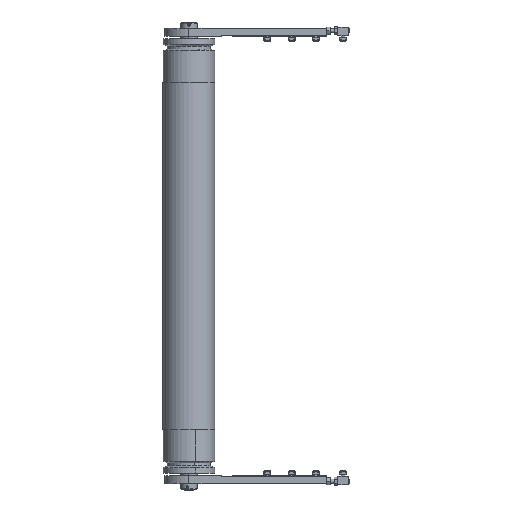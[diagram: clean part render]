
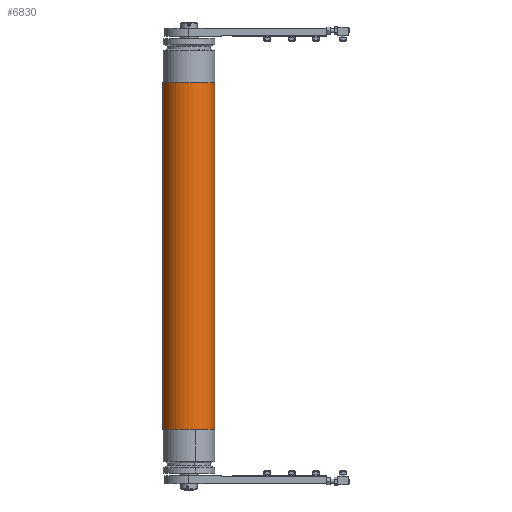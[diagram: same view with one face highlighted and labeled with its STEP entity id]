
A CAD part, front view. The second image highlights one B-rep face of the part: STEP entity #6830.
In plain terms, the highlighted cylindrical face has radius 48 mm (diameter 96 mm), a partial arc.
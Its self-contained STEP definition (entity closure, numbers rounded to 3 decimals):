
#40 = DIRECTION ( 'NONE',  ( -1., 0., 0. ) ) ;
#509 = AXIS2_PLACEMENT_3D ( 'NONE', #9097, #10222, #3620 ) ;
#589 = FACE_OUTER_BOUND ( 'NONE', #692, .T. ) ;
#692 = EDGE_LOOP ( 'NONE', ( #8139, #7138, #11263, #10509 ) ) ;
#892 = DIRECTION ( 'NONE',  ( 0., 0., -1. ) ) ;
#1417 = CIRCLE ( 'NONE', #509, 48. ) ;
#1544 = VECTOR ( 'NONE', #4777, 1000. ) ;
#1654 = VERTEX_POINT ( 'NONE', #10683 ) ;
#1708 = CARTESIAN_POINT ( 'NONE',  ( 321.5, 0., -48. ) ) ;
#2135 = CARTESIAN_POINT ( 'NONE',  ( -321.5, 0., -48. ) ) ;
#2560 = CARTESIAN_POINT ( 'NONE',  ( 321.5, 0., 48. ) ) ;
#3103 = LINE ( 'NONE', #2560, #1544 ) ;
#3459 = DIRECTION ( 'NONE',  ( -1., 0., 0. ) ) ;
#3620 = DIRECTION ( 'NONE',  ( 0., 0., -1. ) ) ;
#3925 = AXIS2_PLACEMENT_3D ( 'NONE', #13506, #3459, #10241 ) ;
#4777 = DIRECTION ( 'NONE',  ( -1., 0., 0. ) ) ;
#5220 = VERTEX_POINT ( 'NONE', #1708 ) ;
#5863 = VERTEX_POINT ( 'NONE', #8331 ) ;
#6077 = EDGE_CURVE ( 'NONE', #5220, #8330, #11059, .T. ) ;
#6830 = ADVANCED_FACE ( 'NONE', ( #589 ), #10691, .T. ) ;
#7138 = ORIENTED_EDGE ( 'NONE', *, *, #8033, .F. ) ;
#8033 = EDGE_CURVE ( 'NONE', #5863, #5220, #1417, .T. ) ;
#8139 = ORIENTED_EDGE ( 'NONE', *, *, #6077, .F. ) ;
#8330 = VERTEX_POINT ( 'NONE', #2135 ) ;
#8331 = CARTESIAN_POINT ( 'NONE',  ( 321.5, 0., 48. ) ) ;
#8580 = VECTOR ( 'NONE', #40, 1000. ) ;
#8834 = AXIS2_PLACEMENT_3D ( 'NONE', #13100, #14140, #892 ) ;
#9097 = CARTESIAN_POINT ( 'NONE',  ( 321.5, 0., 0. ) ) ;
#10222 = DIRECTION ( 'NONE',  ( 1., 0., 0. ) ) ;
#10241 = DIRECTION ( 'NONE',  ( 0., 0., 1. ) ) ;
#10509 = ORIENTED_EDGE ( 'NONE', *, *, #12902, .T. ) ;
#10683 = CARTESIAN_POINT ( 'NONE',  ( -321.5, 0., 48. ) ) ;
#10691 = CYLINDRICAL_SURFACE ( 'NONE', #3925, 48. ) ;
#11059 = LINE ( 'NONE', #12028, #8580 ) ;
#11263 = ORIENTED_EDGE ( 'NONE', *, *, #12763, .T. ) ;
#12028 = CARTESIAN_POINT ( 'NONE',  ( 321.5, 0., -48. ) ) ;
#12370 = CIRCLE ( 'NONE', #8834, 48. ) ;
#12763 = EDGE_CURVE ( 'NONE', #5863, #1654, #3103, .T. ) ;
#12902 = EDGE_CURVE ( 'NONE', #1654, #8330, #12370, .T. ) ;
#13100 = CARTESIAN_POINT ( 'NONE',  ( -321.5, 0., 0. ) ) ;
#13506 = CARTESIAN_POINT ( 'NONE',  ( 321.5, 0., 0. ) ) ;
#14140 = DIRECTION ( 'NONE',  ( 1., 0., 0. ) ) ;
